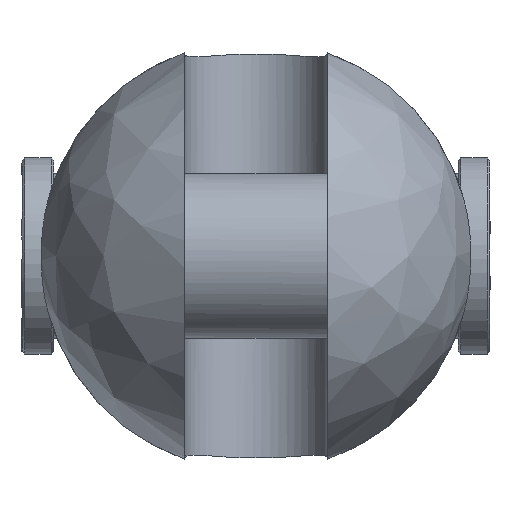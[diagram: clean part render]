
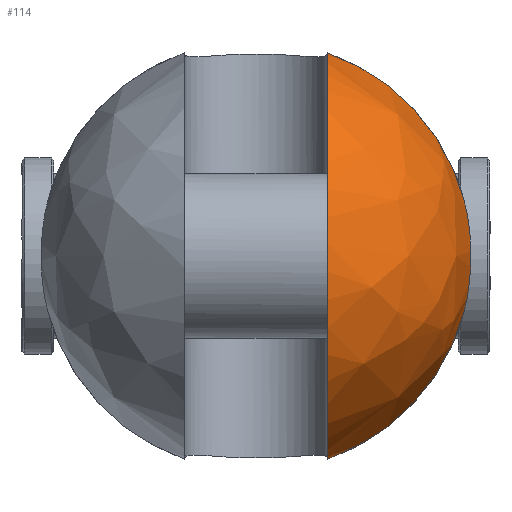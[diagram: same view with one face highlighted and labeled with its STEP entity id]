
A CAD part, left-side view. The second image highlights one B-rep face of the part: STEP entity #114.
In plain terms, the highlighted free-form (B-spline) face has degree [2, 2] with [9, 5] control points.
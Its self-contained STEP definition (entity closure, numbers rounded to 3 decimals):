
#114=ADVANCED_FACE('',(#202),#1535,.T.);
#202=FACE_OUTER_BOUND('',#302,.T.);
#302=EDGE_LOOP('',(#746,#747,#748,#749));
#746=ORIENTED_EDGE('',*,*,#1005,.T.);
#747=ORIENTED_EDGE('',*,*,#1002,.F.);
#748=ORIENTED_EDGE('',*,*,#1021,.T.);
#749=ORIENTED_EDGE('',*,*,#994,.F.);
#994=EDGE_CURVE('',#1425,#1426,#1256,.T.);
#1002=EDGE_CURVE('',#1433,#1434,#1257,.T.);
#1005=EDGE_CURVE('',#1425,#1434,#1259,.T.);
#1021=EDGE_CURVE('',#1433,#1426,#1130,.T.);
#1130=B_SPLINE_CURVE_WITH_KNOTS('',3,(#3620,#3621,#3622,#3623,#3624,#3625,
#3626,#3627,#3628,#3629,#3630,#3631,#3632,#3633),.UNSPECIFIED.,.F.,.F.,
(4,2,2,2,2,2,4),(0.,1.148,6.116,11.083,
16.051,21.019,22.167),.UNSPECIFIED.);
#1256=(
BOUNDED_CURVE()
B_SPLINE_CURVE(2,(#3472,#3473,#3474),.UNSPECIFIED.,.F.,.F.)
B_SPLINE_CURVE_WITH_KNOTS((3,3),(0.,39.344),.UNSPECIFIED.)
CURVE()
GEOMETRIC_REPRESENTATION_ITEM()
RATIONAL_B_SPLINE_CURVE((1.,0.884,1.))
REPRESENTATION_ITEM('')
);
#1257=(
BOUNDED_CURVE()
B_SPLINE_CURVE(2,(#3529,#3530,#3531),.UNSPECIFIED.,.F.,.F.)
B_SPLINE_CURVE_WITH_KNOTS((3,3),(0.,39.344),.UNSPECIFIED.)
CURVE()
GEOMETRIC_REPRESENTATION_ITEM()
RATIONAL_B_SPLINE_CURVE((1.,0.884,1.))
REPRESENTATION_ITEM('')
);
#1259=(
BOUNDED_CURVE()
B_SPLINE_CURVE(2,(#3537,#3538,#3539,#3540,#3541),.UNSPECIFIED.,.F.,.F.)
B_SPLINE_CURVE_WITH_KNOTS((3,2,3),(-119.958,-59.979,0.),
 .UNSPECIFIED.)
CURVE()
GEOMETRIC_REPRESENTATION_ITEM()
RATIONAL_B_SPLINE_CURVE((1.,0.707,1.,0.707,1.))
REPRESENTATION_ITEM('')
);
#1425=VERTEX_POINT('',#3302);
#1426=VERTEX_POINT('',#3303);
#1433=VERTEX_POINT('',#3310);
#1434=VERTEX_POINT('',#3311);
#1535=(
BOUNDED_SURFACE()
B_SPLINE_SURFACE(2,2,((#3174,#3175,#3176,#3177,#3178),(#3179,#3180,#3181,
#3182,#3183),(#3184,#3185,#3186,#3187,#3188),(#3189,#3190,#3191,#3192,#3193),
(#3194,#3195,#3196,#3197,#3198),(#3199,#3200,#3201,#3202,#3203),(#3204,
#3205,#3206,#3207,#3208),(#3209,#3210,#3211,#3212,#3213),(#3214,#3215,#3216,
#3217,#3218)),.UNSPECIFIED.,.T.,.F.,.F.)
B_SPLINE_SURFACE_WITH_KNOTS((3,2,2,2,3),(3,2,3),(0.,63.617,127.235,
190.852,254.469),(0.,63.617,127.235),
 .UNSPECIFIED.)
GEOMETRIC_REPRESENTATION_ITEM()
RATIONAL_B_SPLINE_SURFACE(((1.,0.707,1.,0.707,1.),
(0.707,0.5,0.707,0.5,0.707),(1.,0.707,
1.,0.707,1.),(0.707,0.5,0.707,0.5,0.707),
(1.,0.707,1.,0.707,1.),(0.707,0.5,0.707,
0.5,0.707),(1.,0.707,1.,0.707,1.),(0.707,
0.5,0.707,0.5,0.707),(1.,0.707,1.,0.707,
1.)))
REPRESENTATION_ITEM('')
SURFACE()
);
#3174=CARTESIAN_POINT('',(-57.,0.,0.));
#3175=CARTESIAN_POINT('',(-57.,40.5,0.));
#3176=CARTESIAN_POINT('',(-16.5,40.5,0.));
#3177=CARTESIAN_POINT('',(24.,40.5,0.));
#3178=CARTESIAN_POINT('',(24.,0.,0.));
#3179=CARTESIAN_POINT('',(-57.,0.,0.));
#3180=CARTESIAN_POINT('',(-57.,40.5,40.5));
#3181=CARTESIAN_POINT('',(-16.5,40.5,40.5));
#3182=CARTESIAN_POINT('',(24.,40.5,40.5));
#3183=CARTESIAN_POINT('',(24.,0.,0.));
#3184=CARTESIAN_POINT('',(-57.,0.,0.));
#3185=CARTESIAN_POINT('',(-57.,0.,40.5));
#3186=CARTESIAN_POINT('',(-16.5,0.,40.5));
#3187=CARTESIAN_POINT('',(24.,0.,40.5));
#3188=CARTESIAN_POINT('',(24.,0.,0.));
#3189=CARTESIAN_POINT('',(-57.,0.,0.));
#3190=CARTESIAN_POINT('',(-57.,-40.5,40.5));
#3191=CARTESIAN_POINT('',(-16.5,-40.5,40.5));
#3192=CARTESIAN_POINT('',(24.,-40.5,40.5));
#3193=CARTESIAN_POINT('',(24.,0.,0.));
#3194=CARTESIAN_POINT('',(-57.,0.,0.));
#3195=CARTESIAN_POINT('',(-57.,-40.5,0.));
#3196=CARTESIAN_POINT('',(-16.5,-40.5,0.));
#3197=CARTESIAN_POINT('',(24.,-40.5,0.));
#3198=CARTESIAN_POINT('',(24.,0.,0.));
#3199=CARTESIAN_POINT('',(-57.,0.,0.));
#3200=CARTESIAN_POINT('',(-57.,-40.5,-40.5));
#3201=CARTESIAN_POINT('',(-16.5,-40.5,-40.5));
#3202=CARTESIAN_POINT('',(24.,-40.5,-40.5));
#3203=CARTESIAN_POINT('',(24.,0.,0.));
#3204=CARTESIAN_POINT('',(-57.,0.,0.));
#3205=CARTESIAN_POINT('',(-57.,0.,-40.5));
#3206=CARTESIAN_POINT('',(-16.5,0.,-40.5));
#3207=CARTESIAN_POINT('',(24.,0.,-40.5));
#3208=CARTESIAN_POINT('',(24.,0.,0.));
#3209=CARTESIAN_POINT('',(-57.,0.,0.));
#3210=CARTESIAN_POINT('',(-57.,40.5,-40.5));
#3211=CARTESIAN_POINT('',(-16.5,40.5,-40.5));
#3212=CARTESIAN_POINT('',(24.,40.5,-40.5));
#3213=CARTESIAN_POINT('',(24.,0.,0.));
#3214=CARTESIAN_POINT('',(-57.,0.,0.));
#3215=CARTESIAN_POINT('',(-57.,40.5,0.));
#3216=CARTESIAN_POINT('',(-16.5,40.5,0.));
#3217=CARTESIAN_POINT('',(24.,40.5,0.));
#3218=CARTESIAN_POINT('',(24.,0.,0.));
#3302=CARTESIAN_POINT('',(-16.5,-13.5,38.184));
#3303=CARTESIAN_POINT('',(-16.5,-39.144,10.392));
#3310=CARTESIAN_POINT('',(-16.5,-39.144,-10.392));
#3311=CARTESIAN_POINT('',(-16.5,-13.5,-38.184));
#3472=CARTESIAN_POINT('',(-16.5,-13.5,38.184));
#3473=CARTESIAN_POINT('',(-16.5,-33.658,31.057));
#3474=CARTESIAN_POINT('',(-16.5,-39.144,10.392));
#3529=CARTESIAN_POINT('',(-16.5,-39.144,-10.392));
#3530=CARTESIAN_POINT('',(-16.5,-33.658,-31.057));
#3531=CARTESIAN_POINT('',(-16.5,-13.5,-38.184));
#3537=CARTESIAN_POINT('',(-16.5,-13.5,38.184));
#3538=CARTESIAN_POINT('',(-54.684,-13.5,38.184));
#3539=CARTESIAN_POINT('',(-54.684,-13.5,0.));
#3540=CARTESIAN_POINT('',(-54.684,-13.5,-38.184));
#3541=CARTESIAN_POINT('',(-16.5,-13.5,-38.184));
#3620=CARTESIAN_POINT('',(-16.5,-39.144,-10.392));
#3621=CARTESIAN_POINT('',(-16.701,-39.229,-10.073));
#3622=CARTESIAN_POINT('',(-16.893,-39.309,-9.748));
#3623=CARTESIAN_POINT('',(-17.866,-39.717,-7.984));
#3624=CARTESIAN_POINT('',(-18.479,-39.97,-6.439));
#3625=CARTESIAN_POINT('',(-19.297,-40.306,-3.254));
#3626=CARTESIAN_POINT('',(-19.5,-40.389,-1.614));
#3627=CARTESIAN_POINT('',(-19.5,-40.389,1.614));
#3628=CARTESIAN_POINT('',(-19.297,-40.306,3.254));
#3629=CARTESIAN_POINT('',(-18.479,-39.97,6.439));
#3630=CARTESIAN_POINT('',(-17.866,-39.717,7.984));
#3631=CARTESIAN_POINT('',(-16.893,-39.309,9.748));
#3632=CARTESIAN_POINT('',(-16.701,-39.229,10.073));
#3633=CARTESIAN_POINT('',(-16.5,-39.144,10.392));
